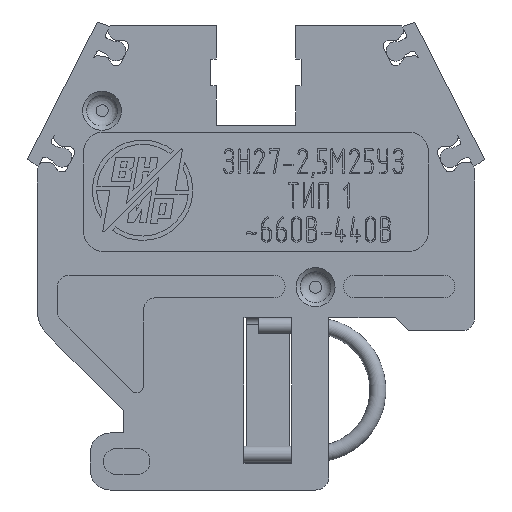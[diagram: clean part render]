
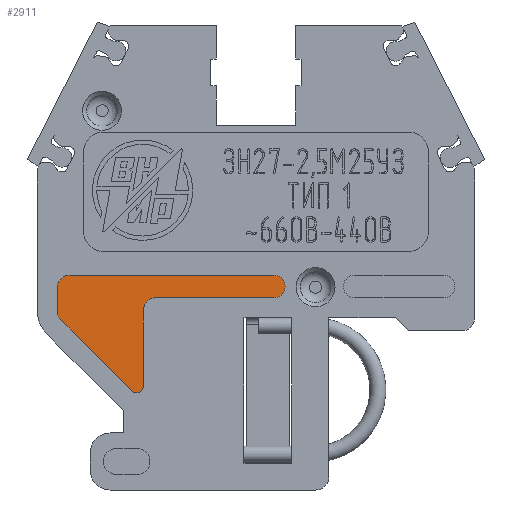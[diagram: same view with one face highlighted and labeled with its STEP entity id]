
A CAD part, left-side view. The second image highlights one B-rep face of the part: STEP entity #2911.
In plain terms, the highlighted planar face has unit normal (-1, 0, 0).
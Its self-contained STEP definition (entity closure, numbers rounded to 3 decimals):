
#2911=ADVANCED_FACE('',(#21436),#21438,.T.);
#21436=FACE_BOUND('',#21437,.T.);
#21437=EDGE_LOOP('',(#37381,#37382,#37383,#37384,#37385,#37386,#37387,#37388,#37389,
#37390));
#21438=PLANE('',#21439);
#21439=AXIS2_PLACEMENT_3D('',#21440,#21441,#21442);
#21440=CARTESIAN_POINT('',(1.8,0.,0.));
#21441=DIRECTION('',(-1.,0.,0.));
#21442=DIRECTION('',(0.,-1.,0.));
#37381=ORIENTED_EDGE('',*,*,#47057,.T.);
#37382=ORIENTED_EDGE('',*,*,#47075,.T.);
#37383=ORIENTED_EDGE('',*,*,#47073,.T.);
#37384=ORIENTED_EDGE('',*,*,#47071,.T.);
#37385=ORIENTED_EDGE('',*,*,#47069,.T.);
#37386=ORIENTED_EDGE('',*,*,#47067,.T.);
#37387=ORIENTED_EDGE('',*,*,#47065,.T.);
#37388=ORIENTED_EDGE('',*,*,#47063,.T.);
#37389=ORIENTED_EDGE('',*,*,#47061,.T.);
#37390=ORIENTED_EDGE('',*,*,#47059,.T.);
#47057=EDGE_CURVE('',#53699,#53697,#53700,.T.);
#47059=EDGE_CURVE('',#53702,#53699,#53703,.T.);
#47061=EDGE_CURVE('',#53705,#53702,#53706,.T.);
#47063=EDGE_CURVE('',#53708,#53705,#53709,.T.);
#47065=EDGE_CURVE('',#53711,#53708,#53712,.T.);
#47067=EDGE_CURVE('',#53714,#53711,#53715,.T.);
#47069=EDGE_CURVE('',#53717,#53714,#53718,.T.);
#47071=EDGE_CURVE('',#53720,#53717,#53721,.T.);
#47073=EDGE_CURVE('',#53723,#53720,#53724,.T.);
#47075=EDGE_CURVE('',#53697,#53723,#53726,.T.);
#53697=VERTEX_POINT('',#65852);
#53699=VERTEX_POINT('',#65856);
#53700=CIRCLE('',#65857,1.);
#53702=VERTEX_POINT('',#65864);
#53703=LINE('',#65865,#65866);
#53705=VERTEX_POINT('',#65871);
#53706=CIRCLE('',#65872,0.5);
#53708=VERTEX_POINT('',#65879);
#53709=LINE('',#65880,#65881);
#53711=VERTEX_POINT('',#65886);
#53712=CIRCLE('',#65887,1.);
#53714=VERTEX_POINT('',#65894);
#53715=LINE('',#65895,#65896);
#53717=VERTEX_POINT('',#65901);
#53718=CIRCLE('',#65902,1.);
#53720=VERTEX_POINT('',#65909);
#53721=LINE('',#65910,#65911);
#53723=VERTEX_POINT('',#65916);
#53724=CIRCLE('',#65917,0.85);
#53726=LINE('',#65924,#65925);
#65852=CARTESIAN_POINT('',(1.8,7.5,14.5));
#65856=CARTESIAN_POINT('',(1.8,8.5,13.5));
#65857=AXIS2_PLACEMENT_3D('',#65858,#65859,#65860);
#65858=CARTESIAN_POINT('',(1.8,7.5,13.5));
#65859=DIRECTION('',(1.,0.,0.));
#65860=DIRECTION('',(0.,1.,0.));
#65864=CARTESIAN_POINT('',(1.8,8.5,7.828));
#65865=CARTESIAN_POINT('',(1.8,8.5,7.828));
#65866=VECTOR('',#65867,1.);
#65867=DIRECTION('',(0.,0.,1.));
#65871=CARTESIAN_POINT('',(1.8,9.354,7.475));
#65872=AXIS2_PLACEMENT_3D('',#65873,#65874,#65875);
#65873=CARTESIAN_POINT('',(1.8,9.,7.828));
#65874=DIRECTION('',(-1.,0.,0.));
#65875=DIRECTION('',(0.,0.707,-0.707));
#65879=CARTESIAN_POINT('',(1.8,14.707,12.828));
#65880=CARTESIAN_POINT('',(1.8,14.707,12.828));
#65881=VECTOR('',#65882,1.);
#65882=DIRECTION('',(0.,-0.707,-0.707));
#65886=CARTESIAN_POINT('',(1.8,15.,13.536));
#65887=AXIS2_PLACEMENT_3D('',#65888,#65889,#65890);
#65888=CARTESIAN_POINT('',(1.8,14.,13.536));
#65889=DIRECTION('',(-1.,0.,0.));
#65890=DIRECTION('',(0.,1.,0.));
#65894=CARTESIAN_POINT('',(1.8,15.,15.2));
#65895=CARTESIAN_POINT('',(1.8,15.,15.2));
#65896=VECTOR('',#65897,1.);
#65897=DIRECTION('',(0.,0.,-1.));
#65901=CARTESIAN_POINT('',(1.8,14.,16.2));
#65902=AXIS2_PLACEMENT_3D('',#65903,#65904,#65905);
#65903=CARTESIAN_POINT('',(1.8,14.,15.2));
#65904=DIRECTION('',(-1.,0.,0.));
#65905=DIRECTION('',(0.,0.,1.));
#65909=CARTESIAN_POINT('',(1.8,-1.35,16.2));
#65910=CARTESIAN_POINT('',(1.8,-1.35,16.2));
#65911=VECTOR('',#65912,1.);
#65912=DIRECTION('',(0.,1.,0.));
#65916=CARTESIAN_POINT('',(1.8,-1.35,14.5));
#65917=AXIS2_PLACEMENT_3D('',#65918,#65919,#65920);
#65918=CARTESIAN_POINT('',(1.8,-1.35,15.35));
#65919=DIRECTION('',(-1.,0.,0.));
#65920=DIRECTION('',(0.,0.,-1.));
#65924=CARTESIAN_POINT('',(1.8,7.5,14.5));
#65925=VECTOR('',#65926,1.);
#65926=DIRECTION('',(0.,-1.,0.));
